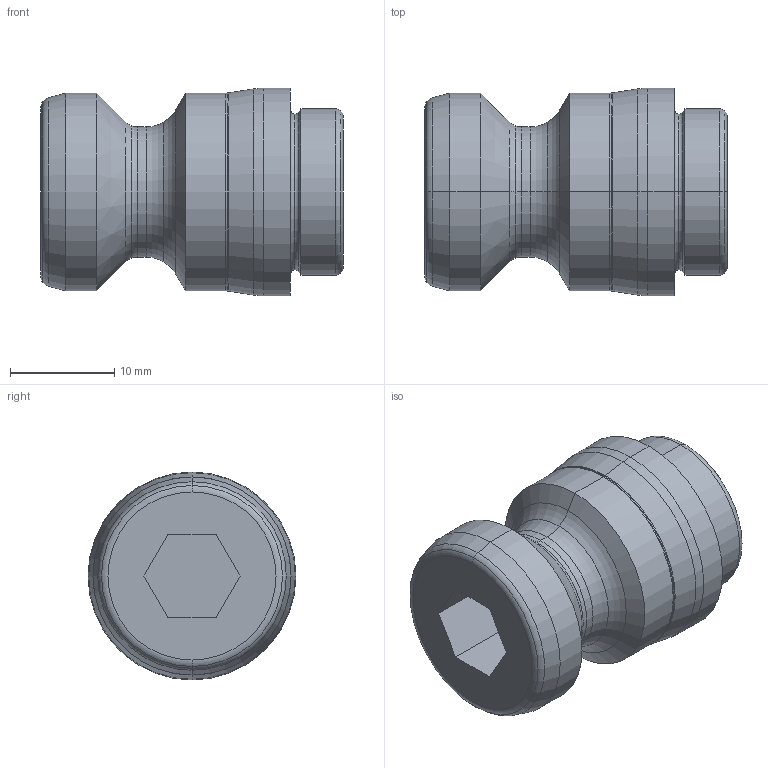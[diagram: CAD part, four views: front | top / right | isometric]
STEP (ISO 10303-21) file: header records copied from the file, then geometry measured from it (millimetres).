
FILE_DESCRIPTION((''),'2;1');
FILE_NAME('PS20F','2025-01-09T18:12:27',('XF'),(''),'CREO PARAMETRIC BY PTC INC, 2023073','CREO PARAMETRIC BY PTC INC, 2023073','');
FILE_SCHEMA(('CONFIG_CONTROL_DESIGN'));
Length unit declared in the file: millimetre
Products named in the file (1): PS20F
Bounding box: 29.08 x 19.97 x 19.97 mm (x, y, z)
Volume: 5753.6 mm3; surface area: 2775.2 mm2
Topology: 1 solids, 1 shells, 59 faces, 120 edges, 66 vertices
Faces by surface type: torus 24, cylinder 12, plane 11, cone 10, bspline 2
Entity records: 1622 total; most frequent: DIRECTION 314, CARTESIAN_POINT 299, ORIENTED_EDGE 240, AXIS2_PLACEMENT_3D 137, EDGE_CURVE 120, CIRCLE 80, VERTEX_POINT 66, EDGE_LOOP 62
